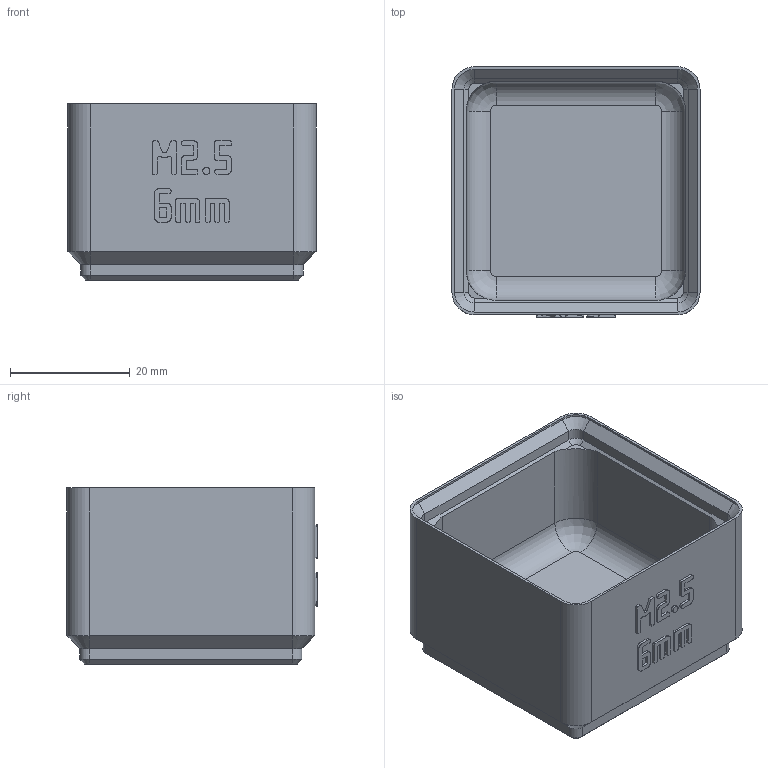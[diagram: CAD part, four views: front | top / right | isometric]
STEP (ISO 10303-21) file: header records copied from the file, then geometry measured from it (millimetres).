
FILE_DESCRIPTION(('Open CASCADE Model'),'2;1');
FILE_NAME('Open CASCADE Shape Model','2026-11-03T10:23:20',('Author'),( 'Open CASCADE'),'Open CASCADE STEP processor 8.0','build123d', 'Unknown');
FILE_SCHEMA(('AUTOMOTIVE_DESIGN { 1 0 10303 214 1 1 1 1 }'));
Products named in the file (1): COMPOUND
Bounding box: 41.5 x 41.9 x 29.5 mm (x, y, z)
Volume: 18940.9 mm3; surface area: 10649.6 mm2
Topology: 1 solids, 1 shells, 751 faces, 2164 edges, 1424 vertices
Faces by surface type: plane 707, cylinder 24, cone 16, revolution 4
Entity records: 50840 total; most frequent: CARTESIAN_POINT 10336, DIRECTION 6532, LINE 4876, VECTOR 4876, ORIENTED_EDGE 4328, PCURVE 4328, DEFINITIONAL_REPRESENTATION 4328, EDGE_CURVE 2164
